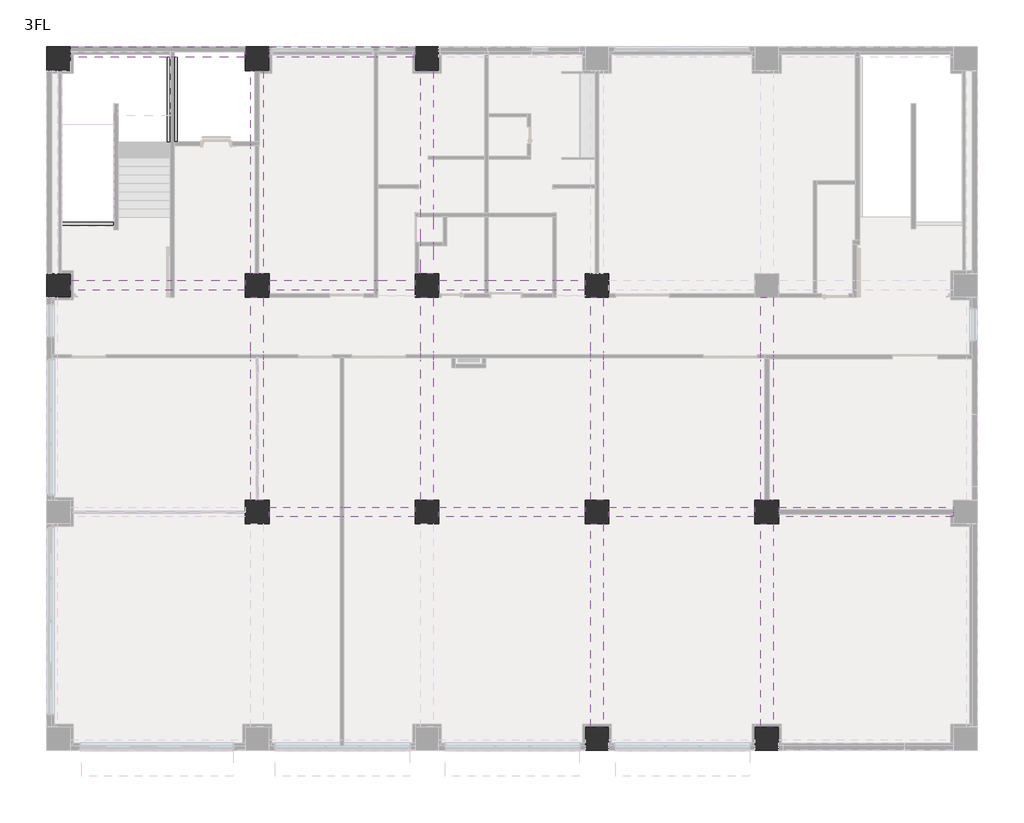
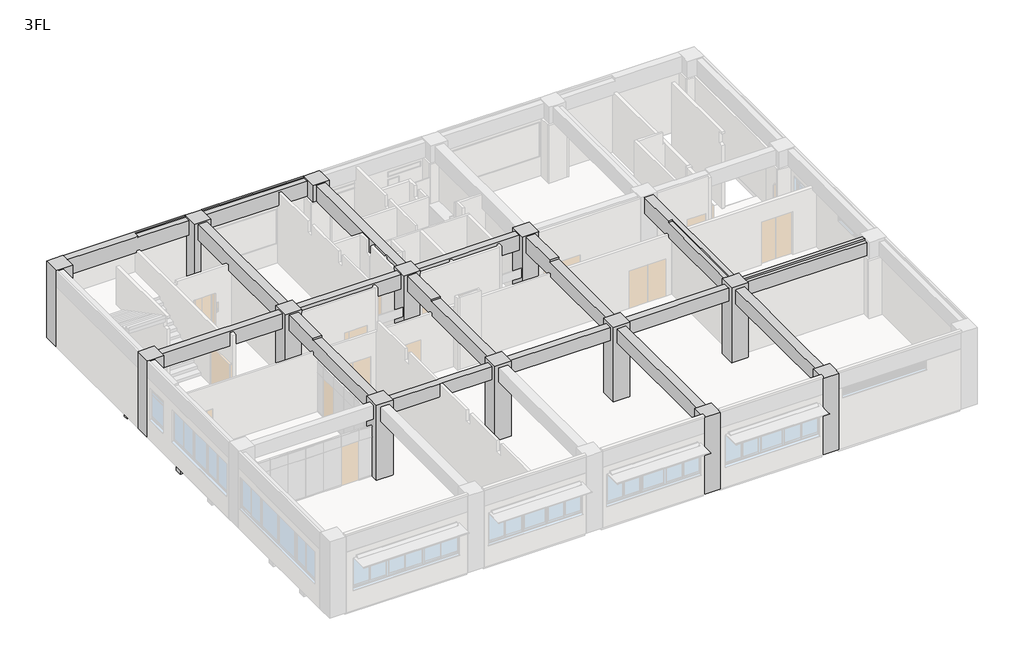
# One storey, part 5 of 6: 38 beams, 13 columns.
"""IFC4 building model written with IfcOpenShell, lengths in millimetres."""

import ifcopenshell
import ifcopenshell.guid

model = None  # the IFC model being written
_history = None  # IfcOwnerHistory: only IFC2X3 demands one
_inside = {}  # id of a spatial element -> (the spatial element, [elements in it])
_under = {}  # id of a project, library or spatial element -> (it, [spatial elements below it])
_declared = {}  # id of a project -> (the project, [libraries it declares])
_typed = {}  # id of a type object -> (the type object, [elements of that type])
_made_of = {}  # id of a material, layer set ... -> (it, [elements and type objects made of it])


def new_model(schema):
    """Start an empty IFC model of exactly this schema.

    Asked for "IFC4X3", IfcOpenShell would pick the latest addendum, in which some entities
    have other attributes; the version numbers below select the first issue.
    IFC2X3 requires an IfcOwnerHistory on every rooted entity: one is made here for all.
    """
    global model, _history
    if schema == "IFC4X3":
        model = ifcopenshell.file(schema_version=(4, 3, 0, 0))
    else:
        model = ifcopenshell.file(schema=schema)
    _inside.clear()
    _under.clear()
    _declared.clear()
    _typed.clear()
    _made_of.clear()
    _history = None
    if model.schema == "IFC2X3":
        org = make("IfcOrganization", Name="unknown")
        user = make(
            "IfcPersonAndOrganization",
            ThePerson=make("IfcPerson", FamilyName="unknown"),
            TheOrganization=org,
        )
        app = make(
            "IfcApplication",
            ApplicationDeveloper=org,
            Version="unknown",
            ApplicationFullName="unknown",
            ApplicationIdentifier="unknown",
        )
        _history = make(
            "IfcOwnerHistory",
            OwningUser=user,
            OwningApplication=app,
            ChangeAction="ADDED",
            CreationDate=0,
        )
    return model


def make(cls, **values):
    """One entity of the class cls with the attributes given. An attribute that is None is left unset."""
    return model.create_entity(
        cls, **{name: value for name, value in values.items() if value is not None}
    )


def rooted(cls, **values):
    """An entity with a GlobalId (a new one), such as an element, a storey or a relation."""
    return make(cls, GlobalId=ifcopenshell.guid.new(), OwnerHistory=_history, **values)


def si_unit(unit_type, name, prefix=None):
    """IfcSIUnit, for example si_unit("LENGTHUNIT", "METRE", prefix="MILLI")."""
    return make("IfcSIUnit", UnitType=unit_type, Prefix=prefix, Name=name)


def assignment(units):
    """IfcUnitAssignment: the units of a project."""
    return None if units is None else make("IfcUnitAssignment", Units=units)


def point(xyz):
    """IfcCartesianPoint."""
    return None if xyz is None else make("IfcCartesianPoint", Coordinates=xyz)


def direction(xyz):
    """IfcDirection."""
    return None if xyz is None else make("IfcDirection", DirectionRatios=xyz)


def frame(location, z_axis=None, x_axis=None):
    """IfcAxis2Placement3D, a coordinate frame: its origin and axes. An axis left out is left unset."""
    return make(
        "IfcAxis2Placement3D",
        Location=point(location),
        Axis=direction(z_axis),
        RefDirection=direction(x_axis),
    )


def origin():
    """The frame at (0, 0, 0) with its axes left unset."""
    return frame((0.0, 0.0, 0.0))


def place(relative_to, where):
    """IfcLocalPlacement: puts the frame where relative to a parent placement (None: the world)."""
    return make(
        "IfcLocalPlacement", PlacementRelTo=relative_to, RelativePlacement=where
    )


def context(
    kind, dimensions, precision=None, world=None, true_north=None, identifier=None
):
    """IfcGeometricRepresentationContext, for example the 3D "Model" context."""
    return make(
        "IfcGeometricRepresentationContext",
        ContextIdentifier=identifier,
        ContextType=kind,
        CoordinateSpaceDimension=dimensions,
        Precision=precision,
        WorldCoordinateSystem=world,
        TrueNorth=true_north,
    )


def project(units=None, contexts=None):
    """IfcProject with its units and contexts."""
    return rooted(
        "IfcProject",
        Name="project",
        RepresentationContexts=contexts,
        UnitsInContext=assignment(units),
    )


def spatial(cls, under=None, at=None, **own):
    """A site, building, storey or space (cls), placed at a placement, below another one or the project."""
    s = rooted(cls, ObjectPlacement=at, **own)
    if under is not None:
        _under.setdefault(under.id(), (under, []))[1].append(s)
    return s


def polyline(points):
    """IfcPolyline through the points."""
    return make("IfcPolyline", Points=[point(p) for p in points])


def outline(outer, holes=None, kind="AREA"):
    """IfcArbitraryClosedProfileDef: a profile drawn as a closed curve; with holes, ...WithVoids."""
    if holes is None:
        return make("IfcArbitraryClosedProfileDef", ProfileType=kind, OuterCurve=outer)
    return make(
        "IfcArbitraryProfileDefWithVoids",
        ProfileType=kind,
        OuterCurve=outer,
        InnerCurves=holes,
    )


def extrude(swept, where, along, depth):
    """IfcExtrudedAreaSolid: the profile swept, set in the frame where, extruded along a direction by depth."""
    return make(
        "IfcExtrudedAreaSolid",
        SweptArea=swept,
        Position=where,
        ExtrudedDirection=direction(along),
        Depth=depth,
    )


def faces_of(points, faces, orient=None, outer=None):
    """IfcFace entities. A face is a list of loops; a loop is a list of indices into points, from 0.

    orient and outer hold one flag for each loop. By default every Orientation is true, the
    first loop of a face is its IfcFaceOuterBound and the others are IfcFaceBound.
    """
    made = []
    for i, loops in enumerate(faces):
        bounds = []
        for j, loop in enumerate(loops):
            is_outer = j == 0 if outer is None else outer[i][j]
            bounds.append(
                make(
                    "IfcFaceOuterBound" if is_outer else "IfcFaceBound",
                    Bound=make("IfcPolyLoop", Polygon=[points[k] for k in loop]),
                    Orientation=True if orient is None else orient[i][j],
                )
            )
        made.append(make("IfcFace", Bounds=bounds))
    return made


def faceted_brep(points, faces, orient=None, outer=None, voids=None):
    """IfcFacetedBrep: a solid bounded by flat faces; with voids (closed shells), ...WithVoids."""
    shared = [point(p) for p in points]
    hull = make("IfcClosedShell", CfsFaces=faces_of(shared, faces, orient, outer))
    if voids is None:
        return make("IfcFacetedBrep", Outer=hull)
    return make(
        "IfcFacetedBrepWithVoids",
        Outer=hull,
        Voids=[
            make(cls, CfsFaces=faces_of(shared, fs, o, b)) for cls, fs, o, b in voids
        ],
    )


def shape(context_of_items, identifier, shape_type, items):
    """IfcShapeRepresentation: the items that make up one representation, for example the "Body"."""
    return make(
        "IfcShapeRepresentation",
        ContextOfItems=context_of_items,
        RepresentationIdentifier=identifier,
        RepresentationType=shape_type,
        Items=items,
    )


def made_of(thing, what):
    """Note that an element or type object is made of a material, layer set ...; save() writes the relation."""
    if what is not None:
        _made_of.setdefault(what.id(), (what, []))[1].append(thing)
    return thing


def element(
    cls,
    number,
    at=None,
    inside=None,
    cuts=None,
    type_object=None,
    material=None,
    context=None,
    identifier="Body",
    shape_type=None,
    held_by="IfcProductDefinitionShape",
    body=None,
    shapes=None,
    **own,
):
    """One element of the class cls, such as IfcWall. Its Tag is "e" and its number.

    at: its placement. inside: the storey or other place that contains it. cuts: it is an
    opening in that element (IfcRelVoidsElement). A single representation is given by context,
    identifier, shape_type and body (its items); several are given by shapes. held_by: the class
    of the entity that holds the representations. save() writes the other relations.
    """
    e = rooted(cls, Tag="e%d" % number, ObjectPlacement=at, **own)
    if body is not None:
        shapes = [shape(context, identifier, shape_type, body)]
    if shapes is not None:
        e.Representation = make(held_by, Representations=shapes)
    if inside is not None:
        _inside.setdefault(inside.id(), (inside, []))[1].append(e)
    if cuts is not None:
        rooted(
            "IfcRelVoidsElement", RelatingBuildingElement=cuts, RelatedOpeningElement=e
        )
    if type_object is not None:
        _typed.setdefault(type_object.id(), (type_object, []))[1].append(e)
    return made_of(e, material)


def aggregate(whole, parts):
    """IfcRelAggregates: a whole, such as a stair, and the parts it consists of."""
    return rooted("IfcRelAggregates", RelatingObject=whole, RelatedObjects=parts)


def save(model, path):
    """Write the relations noted so far, then the file.

    IfcRelAggregates (storeys below a building ...), IfcRelContainedInSpatialStructure (elements
    in a storey), IfcRelDefinesByType, IfcRelAssociatesMaterial and IfcRelDeclares: one each for
    every whole, place, type object, material and project.
    """
    for whole, parts in _under.values():
        aggregate(whole, parts)
    for where, things in _inside.values():
        rooted(
            "IfcRelContainedInSpatialStructure",
            RelatedElements=things,
            RelatingStructure=where,
        )
    for kind, things in _typed.values():
        rooted("IfcRelDefinesByType", RelatedObjects=things, RelatingType=kind)
    for what, things in _made_of.values():
        rooted("IfcRelAssociatesMaterial", RelatedObjects=things, RelatingMaterial=what)
    for by, libraries in _declared.values():
        rooted("IfcRelDeclares", RelatingContext=by, RelatedDefinitions=libraries)
    model.write(path)


model = new_model("IFC4")

# Units and contexts
model_context = context("Model", 3, world=origin())
ifc_project = project(units=[si_unit("LENGTHUNIT", "METRE", prefix="MILLI")], contexts=[model_context])

# Site, building, storey
site = spatial("IfcSite", under=ifc_project)
building = spatial("IfcBuilding", under=site)
storey = spatial("IfcBuildingStorey", under=building, Name="3FL", Elevation=8200.0)

# Beams
placement = place(None, origin())
element("IfcBeam", 1, ObjectType="営_RC梁 : 2-RG2 350*850", at=placement, inside=storey, context=model_context, shape_type="Brep", body=[
    faceted_brep([(7420.0, 7825.0, 11350.0), (9940.0, 7825.0, 11350.0), (10060.0, 7825.0, 11350.0), (12580.0, 7825.0, 11350.0), (12580.0, 7825.0, 12050.0), (10060.0, 7825.0, 12050.0), (9940.0, 7825.0, 12050.0), (7420.0, 7825.0, 12050.0), (7420.0, 8175.0, 11350.0), (9940.0, 8175.0, 11350.0), (10060.0, 8175.0, 11350.0), (12580.0, 8175.0, 11350.0), (7420.0, 8175.0, 12050.0), (9940.0, 8175.0, 12050.0), (10060.0, 8175.0, 12050.0), (12580.0, 8175.0, 12050.0)], [[[0, 1, 2, 3, 4, 5, 6, 7]], [[0, 8, 9, 10, 11, 3, 2, 1]], [[11, 10, 9, 8, 12, 13, 14, 15]], [[8, 0, 7, 12]], [[3, 11, 15, 4]], [[7, 6, 5, 4, 15, 14, 13, 12]]]),
])
element("IfcBeam", 2, ObjectType="営_RC梁 : 2-RG2 350*850", at=placement, inside=storey, context=model_context, shape_type="SweptSolid", body=[
    extrude(outline(polyline([(13420.0, 7825.0), (13420.0, 8175.0), (18580.0, 8175.0), (18580.0, 7825.0), (13420.0, 7825.0)])), frame((0.0, 0.0, 11350.0), z_axis=(0.0, 0.0, 1.0), x_axis=(1.0, 0.0, 0.0)), (0.0, 0.0, 1.0), 700.0),
])
element("IfcBeam", 3, ObjectType="営_RC梁 : 2-RG2 350*850", at=placement, inside=storey, context=model_context, shape_type="SweptSolid", body=[
    extrude(outline(polyline([(19420.0, 7825.0), (19420.0, 8175.0), (24580.0, 8175.0), (24580.0, 7825.0), (19420.0, 7825.0)])), frame((0.0, 0.0, 11350.0), z_axis=(0.0, 0.0, 1.0), x_axis=(1.0, 0.0, 0.0)), (0.0, 0.0, 1.0), 700.0),
])
element("IfcBeam", 4, ObjectType="営_RC梁 : 2-RG2 350*850", at=placement, inside=storey, context=model_context, shape_type="Brep", body=[
    faceted_brep([(25420.0, 7825.0, 11350.0), (31580.0, 7825.0, 11350.0), (31580.0, 7825.0, 12050.0), (25420.0, 7825.0, 12050.0), (25420.0, 7925.0, 11350.0), (25420.0, 8075.0, 11350.0), (25420.0, 8175.0, 11350.0), (31580.0, 8175.0, 11350.0), (31580.0, 8075.0, 11350.0), (31580.0, 7925.0, 11350.0), (25420.0, 8175.0, 12140.0), (31580.0, 8175.0, 12140.0), (25420.0, 8000.0, 12050.0), (25420.0, 8000.0, 12140.0), (31580.0, 8000.0, 12140.0), (31580.0, 8000.0, 12050.0)], [[[0, 1, 2, 3]], [[0, 4, 5, 6, 7, 8, 9, 1]], [[7, 6, 10, 11]], [[6, 5, 4, 0, 3, 12, 13, 10]], [[1, 9, 8, 7, 11, 14, 15, 2]], [[15, 12, 3, 2]], [[12, 15, 14, 13]], [[11, 10, 13, 14]]]),
])
element("IfcBeam", 5, ObjectType="営_RC梁 : 2-RG2 350*850", at=placement, inside=storey, context=model_context, shape_type="Brep", body=[
    faceted_brep([(420.0, 15825.0, 11350.0), (6580.0, 15825.0, 11350.0), (6580.0, 15825.0, 12140.0), (420.0, 15825.0, 12140.0), (6580.0, 16175.0, 11350.0), (420.0, 16175.0, 11350.0), (420.0, 16175.0, 12140.0), (3825.0, 16175.0, 12140.0), (4175.0, 16175.0, 12140.0), (6580.0, 16175.0, 12140.0)], [[[0, 1, 2, 3]], [[4, 1, 0, 5]], [[4, 5, 6, 7, 8, 9]], [[1, 4, 9, 2]], [[5, 0, 3, 6]], [[3, 2, 9, 8, 7, 6]]]),
])
element("IfcBeam", 6, ObjectType="営_RC梁 : 2-RG2 350*850", at=placement, inside=storey, context=model_context, shape_type="Brep", body=[
    faceted_brep([(7420.0, 15825.0, 11350.0), (11140.0, 15825.0, 11350.0), (11260.0, 15825.0, 11350.0), (12580.0, 15825.0, 11350.0), (12580.0, 15825.0, 12140.0), (7420.0, 15825.0, 12140.0), (7420.0, 16175.0, 11350.0), (11140.0, 16175.0, 11350.0), (11260.0, 16175.0, 11350.0), (12580.0, 16175.0, 11350.0), (7420.0, 16175.0, 12140.0), (12580.0, 16175.0, 12140.0)], [[[0, 1, 2, 3, 4, 5]], [[0, 6, 7, 8, 9, 3, 2, 1]], [[9, 8, 7, 6, 10, 11]], [[6, 0, 5, 10]], [[3, 9, 11, 4]], [[5, 4, 11, 10]]]),
])
element("IfcBeam", 7, ObjectType="営_RC梁 : 2-RG2 350*850", at=placement, inside=storey, context=model_context, shape_type="Brep", body=[
    faceted_brep([(13420.0, 15825.0, 11350.0), (15040.0, 15825.0, 11350.0), (15160.0, 15825.0, 11350.0), (17440.0, 15825.0, 11350.0), (17560.0, 15825.0, 11350.0), (18580.0, 15825.0, 11350.0), (18580.0, 15825.0, 12140.0), (13420.0, 15825.0, 12140.0), (13420.0, 16175.0, 11350.0), (15040.0, 16175.0, 11350.0), (15160.0, 16175.0, 11350.0), (17440.0, 16175.0, 11350.0), (17560.0, 16175.0, 11350.0), (18580.0, 16175.0, 11350.0), (13420.0, 16175.0, 12140.0), (18580.0, 16175.0, 12140.0)], [[[0, 1, 2, 3, 4, 5, 6, 7]], [[0, 8, 9, 10, 11, 12, 13, 5, 4, 3, 2, 1]], [[13, 12, 11, 10, 9, 8, 14, 15]], [[8, 0, 7, 14]], [[5, 13, 15, 6]], [[7, 6, 15, 14]]]),
])
element("IfcBeam", 8, ObjectType="営_RC梁 : 2-RG1 350*850", at=placement, inside=storey, context=model_context, shape_type="Brep", body=[
    faceted_brep([(420.0, 24050.0, 11350.0), (3925.0, 24050.0, 11350.0), (4075.0, 24050.0, 11350.0), (6580.0, 24050.0, 11350.0), (6580.0, 24050.0, 12140.0), (4175.0, 24050.0, 12140.0), (4000.0, 24050.0, 12140.0), (4000.0, 24050.0, 12200.0), (3825.0, 24050.0, 12200.0), (420.0, 24050.0, 12200.0), (6580.0, 24420.0, 11350.0), (6580.0, 24250.0, 11350.0), (420.0, 24250.0, 11350.0), (420.0, 24420.0, 11350.0), (6580.0, 24420.0, 12200.0), (420.0, 24420.0, 12200.0), (4000.0, 24335.0, 12200.0), (6580.0, 24335.0, 12200.0), (6580.0, 24335.0, 12140.0), (4000.0, 24335.0, 12140.0)], [[[0, 1, 2, 3, 4, 5, 6, 7, 8, 9]], [[10, 11, 3, 2, 1, 0, 12, 13]], [[14, 10, 13, 15]], [[14, 15, 9, 8, 7, 16, 17]], [[3, 11, 10, 14, 17, 18, 4]], [[0, 9, 15, 13, 12]], [[18, 19, 6, 5, 4]], [[19, 18, 17, 16]], [[6, 19, 16, 7]]]),
])
element("IfcBeam", 9, ObjectType="営_RC梁 : 2-RG1 350*850", at=placement, inside=storey, context=model_context, shape_type="Brep", body=[
    faceted_brep([(7420.0, 24050.0, 11350.0), (11140.0, 24050.0, 11350.0), (11260.0, 24050.0, 11350.0), (12580.0, 24050.0, 11350.0), (12580.0, 24050.0, 12140.0), (7420.0, 24050.0, 12140.0), (7420.0, 24250.0, 11350.0), (7420.0, 24420.0, 11350.0), (12580.0, 24420.0, 11350.0), (12580.0, 24250.0, 11350.0), (7420.0, 24420.0, 12200.0), (12580.0, 24420.0, 12200.0), (7420.0, 24335.0, 12200.0), (12580.0, 24335.0, 12200.0), (7420.0, 24335.0, 12140.0), (12580.0, 24335.0, 12140.0)], [[[0, 1, 2, 3, 4, 5]], [[0, 6, 7, 8, 9, 3, 2, 1]], [[7, 10, 11, 8]], [[11, 10, 12, 13]], [[7, 6, 0, 5, 14, 12, 10]], [[3, 9, 8, 11, 13, 15, 4]], [[15, 14, 5, 4]], [[14, 15, 13, 12]]]),
])
element("IfcBeam", 10, ObjectType="営_RC梁 : 2-4G12 450*900", at=placement, inside=storey, context=model_context, shape_type="Brep", body=[
    faceted_brep([(7225.0, 8420.0, 11300.0), (7225.0, 13440.0, 11300.0), (7225.0, 13560.0, 11300.0), (7225.0, 15580.0, 11300.0), (7225.0, 15580.0, 12140.0), (7225.0, 13675.0, 12140.0), (7225.0, 13500.0, 12140.0), (7225.0, 13500.0, 12050.0), (7225.0, 13325.0, 12050.0), (7225.0, 10925.0, 12050.0), (7225.0, 10575.0, 12050.0), (7225.0, 8420.0, 12050.0), (6775.0, 8420.0, 11300.0), (6775.0, 13440.0, 11300.0), (6775.0, 13560.0, 11300.0), (6775.0, 15580.0, 11300.0), (6775.0, 8420.0, 12050.0), (6775.0, 10575.0, 12050.0), (6775.0, 10925.0, 12050.0), (6775.0, 13325.0, 12050.0), (6775.0, 13500.0, 12050.0), (6775.0, 13500.0, 12140.0), (6775.0, 13675.0, 12140.0), (6775.0, 15580.0, 12140.0)], [[[0, 1, 2, 3, 4, 5, 6, 7, 8, 9, 10, 11]], [[0, 12, 13, 14, 15, 3, 2, 1]], [[15, 14, 13, 12, 16, 17, 18, 19, 20, 21, 22, 23]], [[12, 0, 11, 16]], [[3, 15, 23, 4]], [[7, 20, 19, 18, 17, 16, 11, 10, 9, 8]], [[20, 7, 6, 21]], [[6, 5, 4, 23, 22, 21]]]),
])
element("IfcBeam", 11, ObjectType="営_RC梁 : 2-4G12 450*900", at=placement, inside=storey, context=model_context, shape_type="Brep", body=[
    faceted_brep([(7225.0, 16420.0, 11300.0), (7225.0, 23580.0, 11300.0), (7225.0, 23580.0, 12140.0), (7225.0, 21515.0, 12140.0), (7225.0, 21165.0, 12140.0), (7225.0, 18845.0, 12140.0), (7225.0, 18495.0, 12140.0), (7225.0, 16420.0, 12140.0), (7060.0, 16420.0, 11300.0), (6940.0, 16420.0, 11300.0), (6775.0, 16420.0, 11300.0), (6775.0, 20925.0, 11300.0), (6775.0, 21075.0, 11300.0), (6775.0, 23580.0, 11300.0), (6925.0, 23580.0, 11300.0), (7075.0, 23580.0, 11300.0), (6775.0, 16420.0, 12140.0), (6775.0, 20825.0, 12140.0), (6775.0, 21075.0, 12140.0), (6775.0, 23580.0, 12140.0)], [[[0, 1, 2, 3, 4, 5, 6, 7]], [[0, 8, 9, 10, 11, 12, 13, 14, 15, 1]], [[13, 12, 11, 10, 16, 17, 18, 19]], [[10, 9, 8, 0, 7, 16]], [[1, 15, 14, 13, 19, 2]], [[7, 6, 5, 4, 3, 2, 19, 18, 17, 16]]]),
])
element("IfcBeam", 12, ObjectType="営_RC梁 : 2-4G12 450*900", at=placement, inside=storey, context=model_context, shape_type="Brep", body=[
    faceted_brep([(13225.0, 8420.0, 11300.0), (13225.0, 13440.0, 11300.0), (13225.0, 13560.0, 11300.0), (13225.0, 15580.0, 11300.0), (13225.0, 15580.0, 12140.0), (13225.0, 13675.0, 12140.0), (13225.0, 13500.0, 12140.0), (13225.0, 13500.0, 12050.0), (13225.0, 13325.0, 12050.0), (13225.0, 10925.0, 12050.0), (13225.0, 10575.0, 12050.0), (13225.0, 8420.0, 12050.0), (12775.0, 8420.0, 11300.0), (12775.0, 13440.0, 11300.0), (12775.0, 13560.0, 11300.0), (12775.0, 15580.0, 11300.0), (12775.0, 8420.0, 12050.0), (12775.0, 10575.0, 12050.0), (12775.0, 10925.0, 12050.0), (12775.0, 13325.0, 12050.0), (12775.0, 13500.0, 12050.0), (12775.0, 13500.0, 12140.0), (12775.0, 13675.0, 12140.0), (12775.0, 15580.0, 12140.0)], [[[0, 1, 2, 3, 4, 5, 6, 7, 8, 9, 10, 11]], [[0, 12, 13, 14, 15, 3, 2, 1]], [[15, 14, 13, 12, 16, 17, 18, 19, 20, 21, 22, 23]], [[12, 0, 11, 16]], [[3, 15, 23, 4]], [[7, 20, 19, 18, 17, 16, 11, 10, 9, 8]], [[20, 7, 6, 21]], [[6, 5, 4, 23, 22, 21]]]),
])
element("IfcBeam", 13, ObjectType="営_RC梁 : 2-4G12 450*900", at=placement, inside=storey, context=model_context, shape_type="Brep", body=[
    faceted_brep([(13225.0, 16420.0, 11300.0), (13225.0, 17400.0, 11300.0), (13225.0, 17520.0, 11300.0), (13225.0, 18430.0, 11300.0), (13225.0, 18550.0, 11300.0), (13225.0, 20450.0, 11300.0), (13225.0, 20570.0, 11300.0), (13225.0, 23580.0, 11300.0), (13225.0, 23580.0, 12140.0), (13225.0, 21515.0, 12140.0), (13225.0, 21165.0, 12140.0), (13225.0, 18845.0, 12140.0), (13225.0, 18495.0, 12140.0), (13225.0, 16420.0, 12140.0), (12775.0, 16420.0, 11300.0), (12775.0, 17400.0, 11300.0), (12775.0, 17520.0, 11300.0), (12775.0, 18430.0, 11300.0), (12775.0, 18550.0, 11300.0), (12775.0, 23580.0, 11300.0), (12775.0, 16420.0, 12140.0), (12775.0, 18495.0, 12140.0), (12775.0, 18845.0, 12140.0), (12775.0, 21165.0, 12140.0), (12775.0, 21515.0, 12140.0), (12775.0, 23580.0, 12140.0)], [[[0, 1, 2, 3, 4, 5, 6, 7, 8, 9, 10, 11, 12, 13]], [[0, 14, 15, 16, 17, 18, 19, 7, 6, 5, 4, 3, 2, 1]], [[19, 18, 17, 16, 15, 14, 20, 21, 22, 23, 24, 25]], [[14, 0, 13, 20]], [[7, 19, 25, 8]], [[13, 12, 11, 10, 9, 8, 25, 24, 23, 22, 21, 20]]]),
])
element("IfcBeam", 14, ObjectType="営_RC梁 : 2-4G12 450*900", at=placement, inside=storey, context=model_context, shape_type="Brep", body=[
    faceted_brep([(19225.0, 420.0, 11300.0), (19225.0, 7580.0, 11300.0), (19225.0, 7580.0, 12050.0), (19225.0, 5505.0, 12050.0), (19225.0, 5155.0, 12050.0), (19225.0, 2835.0, 12050.0), (19225.0, 2485.0, 12050.0), (19225.0, 420.0, 12050.0), (18775.0, 420.0, 11300.0), (18775.0, 7580.0, 11300.0), (18775.0, 420.0, 12050.0), (18775.0, 2485.0, 12050.0), (18775.0, 2835.0, 12050.0), (18775.0, 5155.0, 12050.0), (18775.0, 5505.0, 12050.0), (18775.0, 7580.0, 12050.0)], [[[0, 1, 2, 3, 4, 5, 6, 7]], [[0, 8, 9, 1]], [[9, 8, 10, 11, 12, 13, 14, 15]], [[8, 0, 7, 10]], [[1, 9, 15, 2]], [[7, 6, 5, 4, 3, 2, 15, 14, 13, 12, 11, 10]]]),
])
element("IfcBeam", 15, ObjectType="営_RC梁 : 2-4G12 450*900", at=placement, inside=storey, context=model_context, shape_type="Brep", body=[
    faceted_brep([(19225.0, 8420.0, 11300.0), (19225.0, 13440.0, 11300.0), (19225.0, 13560.0, 11300.0), (19225.0, 15580.0, 11300.0), (19225.0, 15580.0, 12140.0), (19225.0, 13675.0, 12140.0), (19225.0, 13500.0, 12140.0), (19225.0, 13500.0, 12050.0), (19225.0, 13325.0, 12050.0), (19225.0, 10925.0, 12050.0), (19225.0, 10575.0, 12050.0), (19225.0, 8420.0, 12050.0), (18775.0, 8420.0, 11300.0), (18775.0, 13440.0, 11300.0), (18775.0, 13560.0, 11300.0), (18775.0, 15580.0, 11300.0), (18775.0, 8420.0, 12050.0), (18775.0, 10575.0, 12050.0), (18775.0, 10925.0, 12050.0), (18775.0, 13325.0, 12050.0), (18775.0, 13500.0, 12050.0), (18775.0, 13500.0, 12140.0), (18775.0, 13675.0, 12140.0), (18775.0, 15580.0, 12140.0)], [[[0, 1, 2, 3, 4, 5, 6, 7, 8, 9, 10, 11]], [[0, 12, 13, 14, 15, 3, 2, 1]], [[15, 14, 13, 12, 16, 17, 18, 19, 20, 21, 22, 23]], [[12, 0, 11, 16]], [[3, 15, 23, 4]], [[7, 20, 19, 18, 17, 16, 11, 10, 9, 8]], [[20, 7, 6, 21]], [[6, 5, 4, 23, 22, 21]]]),
])
element("IfcBeam", 16, ObjectType="営_RC梁 : 2-4G12 450*900", at=placement, inside=storey, context=model_context, shape_type="Brep", body=[
    faceted_brep([(25225.0, 420.0, 11300.0), (25225.0, 7580.0, 11300.0), (25225.0, 7580.0, 12050.0), (25225.0, 5505.0, 12050.0), (25225.0, 5155.0, 12050.0), (25225.0, 2835.0, 12050.0), (25225.0, 2485.0, 12050.0), (25225.0, 420.0, 12050.0), (24775.0, 420.0, 11300.0), (24775.0, 7580.0, 11300.0), (24775.0, 420.0, 12050.0), (24775.0, 2485.0, 12050.0), (24775.0, 2835.0, 12050.0), (24775.0, 5155.0, 12050.0), (24775.0, 5505.0, 12050.0), (24775.0, 7580.0, 12050.0)], [[[0, 1, 2, 3, 4, 5, 6, 7]], [[0, 8, 9, 1]], [[9, 8, 10, 11, 12, 13, 14, 15]], [[8, 0, 7, 10]], [[1, 9, 15, 2]], [[7, 6, 5, 4, 3, 2, 15, 14, 13, 12, 11, 10]]]),
])
element("IfcBeam", 17, ObjectType="営_RC梁 : 2-4G12 450*900", at=placement, inside=storey, context=model_context, shape_type="Brep", body=[
    faceted_brep([(25225.0, 8420.0, 11300.0), (25225.0, 13405.0, 11300.0), (25225.0, 13555.0, 11300.0), (25225.0, 15580.0, 11300.0), (25225.0, 15580.0, 12140.0), (25225.0, 13675.0, 12140.0), (25225.0, 13325.0, 12140.0), (25225.0, 10925.0, 12140.0), (25225.0, 10575.0, 12140.0), (25225.0, 8420.0, 12140.0), (25075.0, 8420.0, 11300.0), (24925.0, 8420.0, 11300.0), (24775.0, 8420.0, 11300.0), (24775.0, 13440.0, 11300.0), (24775.0, 13560.0, 11300.0), (24775.0, 15580.0, 11300.0), (24775.0, 8420.0, 12050.0), (24775.0, 10575.0, 12050.0), (24775.0, 10925.0, 12050.0), (24775.0, 13325.0, 12050.0), (24775.0, 13500.0, 12050.0), (24775.0, 13500.0, 12140.0), (24775.0, 13675.0, 12140.0), (24775.0, 15580.0, 12140.0), (25000.0, 8420.0, 12140.0), (25000.0, 8420.0, 12050.0), (25000.0, 13500.0, 12050.0), (25000.0, 13500.0, 12140.0)], [[[0, 1, 2, 3, 4, 5, 6, 7, 8, 9]], [[0, 10, 11, 12, 13, 14, 15, 3, 2, 1]], [[15, 14, 13, 12, 16, 17, 18, 19, 20, 21, 22, 23]], [[12, 11, 10, 0, 9, 24, 25, 16]], [[3, 15, 23, 4]], [[25, 26, 20, 19, 18, 17, 16]], [[20, 26, 27, 21]], [[26, 25, 24, 27]], [[9, 8, 7, 6, 5, 4, 23, 22, 21, 27, 24]]]),
])
element("IfcBeam", 18, ObjectType="営_RC梁 : B2 350*750", at=placement, inside=storey, context=model_context, shape_type="SweptSolid", body=[
    extrude(outline(polyline([(25225.0, 2485.0), (25225.0, 2835.0), (32050.0, 2835.0), (32050.0, 2485.0), (25225.0, 2485.0)])), frame((0.0, 0.0, 7350.0), z_axis=(0.0, 0.0, 1.0), x_axis=(1.0, 0.0, 0.0)), (0.0, 0.0, 1.0), 600.0),
])
element("IfcBeam", 19, ObjectType="営_RC梁 : B2 350*750", at=placement, inside=storey, context=model_context, shape_type="SweptSolid", body=[
    extrude(outline(polyline([(25225.0, 5155.0), (25225.0, 5505.0), (32050.0, 5505.0), (32050.0, 5155.0), (25225.0, 5155.0)])), frame((0.0, 0.0, 7350.0), z_axis=(0.0, 0.0, 1.0), x_axis=(1.0, 0.0, 0.0)), (0.0, 0.0, 1.0), 600.0),
])
element("IfcBeam", 20, ObjectType="営_RC梁 : B2 350*750", at=placement, inside=storey, context=model_context, shape_type="SweptSolid", body=[
    extrude(outline(polyline([(25225.0, 10575.0), (25225.0, 10925.0), (32050.0, 10925.0), (32050.0, 10575.0), (25225.0, 10575.0)])), frame((0.0, 0.0, 7350.0), z_axis=(0.0, 0.0, 1.0), x_axis=(1.0, 0.0, 0.0)), (0.0, 0.0, 1.0), 690.0),
])
element("IfcBeam", 21, ObjectType="営_RC梁 : B2 350*750", at=placement, inside=storey, context=model_context, shape_type="Brep", body=[
    faceted_brep([(25225.0, 13325.0, 7350.0), (32050.0, 13325.0, 7350.0), (32050.0, 13325.0, 8040.0), (25225.0, 13325.0, 8040.0), (25225.0, 13410.0, 7350.0), (25225.0, 13560.0, 7350.0), (25225.0, 13675.0, 7350.0), (32050.0, 13675.0, 7350.0), (32050.0, 13560.0, 7350.0), (32050.0, 13410.0, 7350.0), (25225.0, 13675.0, 8040.0), (32050.0, 13675.0, 8040.0)], [[[0, 1, 2, 3]], [[0, 4, 5, 6, 7, 8, 9, 1]], [[7, 6, 10, 11]], [[6, 5, 4, 0, 3, 10]], [[1, 9, 8, 7, 11, 2]], [[3, 2, 11, 10]]]),
])
element("IfcBeam", 22, ObjectType="営_RC梁 : B2 350*750", at=placement, inside=storey, context=model_context, shape_type="Brep", body=[
    faceted_brep([(19225.0, 2485.0, 7350.0), (20940.0, 2485.0, 7350.0), (21060.0, 2485.0, 7350.0), (24775.0, 2485.0, 7350.0), (24775.0, 2485.0, 7950.0), (21060.0, 2485.0, 7950.0), (20940.0, 2485.0, 7950.0), (19225.0, 2485.0, 7950.0), (19225.0, 2835.0, 7350.0), (20940.0, 2835.0, 7350.0), (21060.0, 2835.0, 7350.0), (24775.0, 2835.0, 7350.0), (19225.0, 2835.0, 7950.0), (20940.0, 2835.0, 7950.0), (21060.0, 2835.0, 7950.0), (24775.0, 2835.0, 7950.0)], [[[0, 1, 2, 3, 4, 5, 6, 7]], [[0, 8, 9, 10, 11, 3, 2, 1]], [[11, 10, 9, 8, 12, 13, 14, 15]], [[8, 0, 7, 12]], [[3, 11, 15, 4]], [[7, 6, 5, 4, 15, 14, 13, 12]]]),
])
element("IfcBeam", 23, ObjectType="営_RC梁 : B2 350*750", at=placement, inside=storey, context=model_context, shape_type="Brep", body=[
    faceted_brep([(19225.0, 5155.0, 7350.0), (20940.0, 5155.0, 7350.0), (21060.0, 5155.0, 7350.0), (24775.0, 5155.0, 7350.0), (24775.0, 5155.0, 7950.0), (21060.0, 5155.0, 7950.0), (20940.0, 5155.0, 7950.0), (19225.0, 5155.0, 7950.0), (19225.0, 5505.0, 7350.0), (20940.0, 5505.0, 7350.0), (21060.0, 5505.0, 7350.0), (24775.0, 5505.0, 7350.0), (19225.0, 5505.0, 7950.0), (20940.0, 5505.0, 7950.0), (21060.0, 5505.0, 7950.0), (24775.0, 5505.0, 7950.0)], [[[0, 1, 2, 3, 4, 5, 6, 7]], [[0, 8, 9, 10, 11, 3, 2, 1]], [[11, 10, 9, 8, 12, 13, 14, 15]], [[8, 0, 7, 12]], [[3, 11, 15, 4]], [[7, 6, 5, 4, 15, 14, 13, 12]]]),
])
element("IfcBeam", 24, ObjectType="営_RC梁 : B2 350*750", at=placement, inside=storey, context=model_context, shape_type="Brep", body=[
    faceted_brep([(19225.0, 10575.0, 7350.0), (20940.0, 10575.0, 7350.0), (21060.0, 10575.0, 7350.0), (24775.0, 10575.0, 7350.0), (24775.0, 10575.0, 7950.0), (21060.0, 10575.0, 7950.0), (20940.0, 10575.0, 7950.0), (19225.0, 10575.0, 7950.0), (19225.0, 10925.0, 7350.0), (20940.0, 10925.0, 7350.0), (21060.0, 10925.0, 7350.0), (24775.0, 10925.0, 7350.0), (19225.0, 10925.0, 7950.0), (20940.0, 10925.0, 7950.0), (21060.0, 10925.0, 7950.0), (24775.0, 10925.0, 7950.0)], [[[0, 1, 2, 3, 4, 5, 6, 7]], [[0, 8, 9, 10, 11, 3, 2, 1]], [[11, 10, 9, 8, 12, 13, 14, 15]], [[8, 0, 7, 12]], [[3, 11, 15, 4]], [[7, 6, 5, 4, 15, 14, 13, 12]]]),
])
element("IfcBeam", 25, ObjectType="営_RC梁 : B2 350*750", at=placement, inside=storey, context=model_context, shape_type="Brep", body=[
    faceted_brep([(19225.0, 13325.0, 7350.0), (20940.0, 13325.0, 7350.0), (21060.0, 13325.0, 7350.0), (24775.0, 13325.0, 7350.0), (24775.0, 13325.0, 7950.0), (21060.0, 13325.0, 7950.0), (20940.0, 13325.0, 7950.0), (19225.0, 13325.0, 7950.0), (19225.0, 13675.0, 7350.0), (24775.0, 13675.0, 7350.0), (24775.0, 13560.0, 7350.0), (24775.0, 13440.0, 7350.0), (19225.0, 13675.0, 8040.0), (24775.0, 13675.0, 8040.0), (19225.0, 13500.0, 7950.0), (19225.0, 13500.0, 8040.0), (24775.0, 13500.0, 8040.0), (24775.0, 13500.0, 7950.0)], [[[0, 1, 2, 3, 4, 5, 6, 7]], [[0, 8, 9, 10, 11, 3, 2, 1]], [[9, 8, 12, 13]], [[8, 0, 7, 14, 15, 12]], [[3, 11, 10, 9, 13, 16, 17, 4]], [[17, 14, 7, 6, 5, 4]], [[14, 17, 16, 15]], [[13, 12, 15, 16]]]),
])
element("IfcBeam", 26, ObjectType="営_RC梁 : B2 350*750", at=placement, inside=storey, context=model_context, shape_type="SweptSolid", body=[
    extrude(outline(polyline([(13225.0, 5155.0), (13225.0, 5505.0), (18775.0, 5505.0), (18775.0, 5155.0), (13225.0, 5155.0)])), frame((0.0, 0.0, 7350.0), z_axis=(0.0, 0.0, 1.0), x_axis=(1.0, 0.0, 0.0)), (0.0, 0.0, 1.0), 600.0),
])
element("IfcBeam", 27, ObjectType="営_RC梁 : B2 350*750", at=placement, inside=storey, context=model_context, shape_type="SweptSolid", body=[
    extrude(outline(polyline([(13225.0, 2485.0), (13225.0, 2835.0), (18775.0, 2835.0), (18775.0, 2485.0), (13225.0, 2485.0)])), frame((0.0, 0.0, 7350.0), z_axis=(0.0, 0.0, 1.0), x_axis=(1.0, 0.0, 0.0)), (0.0, 0.0, 1.0), 600.0),
])
element("IfcBeam", 28, ObjectType="営_RC梁 : B1 350*750", at=placement, inside=storey, context=model_context, shape_type="SweptSolid", body=[
    extrude(outline(polyline([(13675.0, 7350.0), (13325.0, 7350.0), (13325.0, 7950.0), (13500.0, 7950.0), (13500.0, 8040.0), (13675.0, 8040.0), (13675.0, 7350.0)])), frame((-50.0, 0.0, 0.0), z_axis=(1.0, 0.0, 0.0), x_axis=(0.0, 1.0, 0.0)), (0.0, 0.0, 1.0), 6825.0),
])
element("IfcBeam", 29, ObjectType="営_RC梁 : B2 350*750", at=placement, inside=storey, context=model_context, shape_type="SweptSolid", body=[
    extrude(outline(polyline([(7225.0, 10575.0), (7225.0, 10925.0), (12775.0, 10925.0), (12775.0, 10575.0), (7225.0, 10575.0)])), frame((0.0, 0.0, 7350.0), z_axis=(0.0, 0.0, 1.0), x_axis=(1.0, 0.0, 0.0)), (0.0, 0.0, 1.0), 600.0),
])
element("IfcBeam", 30, ObjectType="営_RC梁 : B2 350*750", at=placement, inside=storey, context=model_context, shape_type="SweptSolid", body=[
    extrude(outline(polyline([(13675.0, 7350.0), (13325.0, 7350.0), (13325.0, 7950.0), (13500.0, 7950.0), (13500.0, 8040.0), (13675.0, 8040.0), (13675.0, 7350.0)])), frame((7225.0, 0.0, 0.0), z_axis=(1.0, 0.0, 0.0), x_axis=(0.0, 1.0, 0.0)), (0.0, 0.0, 1.0), 5550.0),
])
element("IfcBeam", 31, ObjectType="営_RC梁 : B2 350*750", at=placement, inside=storey, context=model_context, shape_type="SweptSolid", body=[
    extrude(outline(polyline([(18775.0, 10925.0), (18775.0, 10575.0), (13225.0, 10575.0), (13225.0, 10925.0), (18775.0, 10925.0)])), frame((0.0, 0.0, 7350.0), z_axis=(0.0, 0.0, 1.0), x_axis=(1.0, 0.0, 0.0)), (0.0, 0.0, 1.0), 600.0),
])
element("IfcBeam", 32, ObjectType="営_RC梁 : B2 350*750", at=placement, inside=storey, context=model_context, shape_type="Brep", body=[
    faceted_brep([(13225.0, 13325.0, 7350.0), (13870.0, 13325.0, 7350.0), (13990.0, 13325.0, 7350.0), (14950.0, 13325.0, 7350.0), (15070.0, 13325.0, 7350.0), (18775.0, 13325.0, 7350.0), (18775.0, 13325.0, 7950.0), (15070.0, 13325.0, 7950.0), (14950.0, 13325.0, 7950.0), (13990.0, 13325.0, 7950.0), (13870.0, 13325.0, 7950.0), (13225.0, 13325.0, 7950.0), (18775.0, 13675.0, 7350.0), (13225.0, 13675.0, 7350.0), (13225.0, 13675.0, 8040.0), (18775.0, 13675.0, 8040.0), (18775.0, 13500.0, 8040.0), (18775.0, 13500.0, 7950.0), (13225.0, 13500.0, 7950.0), (13225.0, 13500.0, 8040.0)], [[[0, 1, 2, 3, 4, 5, 6, 7, 8, 9, 10, 11]], [[12, 5, 4, 3, 2, 1, 0, 13]], [[12, 13, 14, 15]], [[5, 12, 15, 16, 17, 6]], [[13, 0, 11, 18, 19, 14]], [[17, 18, 11, 10, 9, 8, 7, 6]], [[18, 17, 16, 19]], [[15, 14, 19, 16]]]),
])
element("IfcBeam", 33, ObjectType="営_RC梁 : B1 350*750", at=placement, inside=storey, context=model_context, shape_type="Brep", body=[
    faceted_brep([(13225.0, 18495.0, 7350.0), (13570.0, 18495.0, 7350.0), (13690.0, 18495.0, 7350.0), (15160.0, 18495.0, 7350.0), (17560.0, 18495.0, 7350.0), (18775.0, 18495.0, 7350.0), (18775.0, 18495.0, 8040.0), (13225.0, 18495.0, 8040.0), (13225.0, 18495.0, 7950.0), (13225.0, 18550.0, 7350.0), (13225.0, 18845.0, 7350.0), (15040.0, 18845.0, 7350.0), (15160.0, 18845.0, 7350.0), (17440.0, 18845.0, 7350.0), (17560.0, 18845.0, 7350.0), (18775.0, 18845.0, 7350.0), (13225.0, 18845.0, 8040.0), (18775.0, 18845.0, 8040.0)], [[[0, 1, 2, 3, 4, 5, 6, 7, 8]], [[0, 9, 10, 11, 12, 13, 14, 15, 5, 4, 3, 2, 1]], [[15, 14, 13, 12, 11, 10, 16, 17]], [[10, 9, 0, 8, 7, 16]], [[5, 15, 17, 6]], [[7, 6, 17, 16]]]),
])
element("IfcBeam", 34, ObjectType="営_RC梁 : B1 350*750", at=placement, inside=storey, context=model_context, shape_type="Brep", body=[
    faceted_brep([(7225.0, 18495.0, 7350.0), (11140.0, 18495.0, 7350.0), (11260.0, 18495.0, 7350.0), (12580.0, 18495.0, 7350.0), (12700.0, 18495.0, 7350.0), (12775.0, 18495.0, 7350.0), (12775.0, 18495.0, 7950.0), (12775.0, 18495.0, 8040.0), (11200.0, 18495.0, 8040.0), (11200.0, 18495.0, 7950.0), (11140.0, 18495.0, 7950.0), (7225.0, 18495.0, 7950.0), (7225.0, 18845.0, 7350.0), (11140.0, 18845.0, 7350.0), (11260.0, 18845.0, 7350.0), (12580.0, 18845.0, 7350.0), (12700.0, 18845.0, 7350.0), (12775.0, 18845.0, 7350.0), (12775.0, 18550.0, 7350.0), (7225.0, 18845.0, 7950.0), (11140.0, 18845.0, 7950.0), (11200.0, 18845.0, 7950.0), (11200.0, 18845.0, 8040.0), (12775.0, 18845.0, 8040.0)], [[[0, 1, 2, 3, 4, 5, 6, 7, 8, 9, 10, 11]], [[0, 12, 13, 14, 15, 16, 17, 18, 5, 4, 3, 2, 1]], [[17, 16, 15, 14, 13, 12, 19, 20, 21, 22, 23]], [[12, 0, 11, 19]], [[5, 18, 17, 23, 7, 6]], [[8, 7, 23, 22]], [[9, 21, 20, 19, 11, 10]], [[21, 9, 8, 22]]]),
])
element("IfcBeam", 35, ObjectType="営_RC梁 : B1 350*750", at=placement, inside=storey, context=model_context, shape_type="Brep", body=[
    faceted_brep([(7225.0, 21165.0, 7350.0), (11140.0, 21165.0, 7350.0), (11260.0, 21165.0, 7350.0), (12775.0, 21165.0, 7350.0), (12775.0, 21165.0, 8040.0), (11200.0, 21165.0, 8040.0), (11200.0, 21165.0, 7950.0), (11140.0, 21165.0, 7950.0), (7225.0, 21165.0, 7950.0), (7225.0, 21515.0, 7350.0), (11140.0, 21515.0, 7350.0), (11260.0, 21515.0, 7350.0), (12775.0, 21515.0, 7350.0), (7225.0, 21515.0, 7950.0), (11140.0, 21515.0, 7950.0), (11200.0, 21515.0, 7950.0), (11200.0, 21515.0, 8040.0), (12775.0, 21515.0, 8040.0)], [[[0, 1, 2, 3, 4, 5, 6, 7, 8]], [[0, 9, 10, 11, 12, 3, 2, 1]], [[12, 11, 10, 9, 13, 14, 15, 16, 17]], [[9, 0, 8, 13]], [[3, 12, 17, 4]], [[5, 4, 17, 16]], [[6, 15, 14, 13, 8, 7]], [[15, 6, 5, 16]]]),
])
element("IfcBeam", 36, ObjectType="営_RC梁 : B3 250*600", at=placement, inside=storey, context=model_context, shape_type="Brep", body=[
    faceted_brep([(4306.3, 21075.0, 7500.0), (4306.3, 20925.0, 7500.0), (4306.3, 20825.0, 7500.0), (4306.3, 20825.0, 8040.0), (4306.3, 21075.0, 8040.0), (4306.3, 21075.0, 7950.0), (6775.0, 20825.0, 7500.0), (6775.0, 20825.0, 8040.0), (6775.0, 21075.0, 7500.0), (6775.0, 20925.0, 7500.0), (6775.0, 21075.0, 8040.0)], [[[0, 1, 2, 3, 4, 5]], [[2, 6, 7, 3]], [[2, 1, 0, 8, 9, 6]], [[8, 0, 5, 4, 10]], [[6, 9, 8, 10, 7]], [[4, 3, 7, 10]]]),
])
element("IfcBeam", 37, ObjectType="営_RC梁 : B4 350*750", at=placement, inside=storey, context=model_context, shape_type="Brep", body=[
    faceted_brep([(4175.0, 16175.0, 7350.0), (4175.0, 20925.0, 7350.0), (4175.0, 21075.0, 7350.0), (4175.0, 24050.0, 7350.0), (4175.0, 24050.0, 8100.0), (4175.0, 21075.0, 8100.0), (4175.0, 21075.0, 8040.0), (4175.0, 16175.0, 8040.0), (3825.0, 16175.0, 7350.0), (3825.0, 24050.0, 7350.0), (3925.0, 24050.0, 7350.0), (4075.0, 24050.0, 7350.0), (3825.0, 16175.0, 8040.0), (3825.0, 17975.0, 8040.0), (3825.0, 18225.0, 8040.0), (3825.0, 18400.0, 8040.0), (3825.0, 18400.0, 8100.0), (3825.0, 24050.0, 8100.0), (4000.0, 18400.0, 8100.0), (4000.0, 21075.0, 8100.0), (4000.0, 21075.0, 8040.0), (4000.0, 18400.0, 8040.0)], [[[0, 1, 2, 3, 4, 5, 6, 7]], [[0, 8, 9, 10, 11, 3, 2, 1]], [[9, 8, 12, 13, 14, 15, 16, 17]], [[4, 17, 16, 18, 19, 5]], [[8, 0, 7, 12]], [[4, 3, 11, 10, 9, 17]], [[20, 21, 15, 14, 13, 12, 7, 6]], [[15, 21, 18, 16]], [[21, 20, 19, 18]], [[20, 6, 5, 19]]]),
])
element("IfcBeam", 38, ObjectType="営_RC梁 : B3 250*600", at=placement, inside=storey, context=model_context, shape_type="Brep", body=[
    faceted_brep([(-50.0, 17975.0, 7500.0), (3825.0, 17975.0, 7500.0), (3825.0, 17975.0, 8040.0), (-50.0, 17975.0, 8040.0), (3825.0, 18225.0, 7500.0), (-50.0, 18225.0, 7500.0), (1945.0, 18225.0, 7500.0), (2095.0, 18225.0, 7500.0), (-50.0, 18225.0, 8040.0), (100.0, 18225.0, 8040.0), (100.0, 18225.0, 8100.0), (1945.0, 18225.0, 8100.0), (2095.0, 18225.0, 8100.0), (2095.0, 18225.0, 8040.0), (3825.0, 18225.0, 8040.0), (100.0, 18100.0, 8100.0), (1945.0, 18100.0, 8100.0), (1945.0, 18005.0, 8100.0), (2095.0, 18005.0, 8100.0), (1945.0, 18100.0, 8040.0), (100.0, 18100.0, 8040.0), (2095.0, 18005.0, 8040.0), (1945.0, 18005.0, 8040.0)], [[[0, 1, 2, 3]], [[4, 1, 0, 5, 6, 7]], [[4, 7, 6, 5, 8, 9, 10, 11, 12, 13, 14]], [[12, 11, 10, 15, 16, 17, 18]], [[1, 4, 14, 2]], [[5, 0, 3, 8]], [[19, 20, 9, 8, 3, 2, 14, 13, 21, 22]], [[9, 20, 15, 10]], [[20, 19, 16, 15]], [[19, 22, 17, 16]], [[22, 21, 18, 17]], [[21, 13, 12, 18]]]),
])

# Columns
element("IfcColumn", 39, ObjectType="営_RC柱_角 : 800*800", at=placement, inside=storey, context=model_context, shape_type="Brep", body=[
    faceted_brep([(19420.0, 420.0, 8100.0), (19420.0, -250.0, 8100.0), (19420.0, -420.0, 8100.0), (18580.0, -420.0, 8100.0), (18580.0, -250.0, 8100.0), (18580.0, 420.0, 8100.0), (19420.0, 420.0, 12200.0), (19420.0, -325.0, 12200.0), (19420.0, -420.0, 12200.0), (19420.0, -420.0, 11350.0), (19420.0, 420.0, 8180.0), (19420.0, 420.0, 8190.0), (19420.0, 420.0, 12050.0), (19395.0, -420.0, 12200.0), (18605.0, -420.0, 12200.0), (18580.0, -420.0, 12200.0), (18580.0, -420.0, 11350.0), (18580.0, -325.0, 12200.0), (18580.0, 420.0, 12200.0), (18580.0, 420.0, 12050.0), (18580.0, 420.0, 8190.0), (18580.0, 420.0, 8180.0)], [[[0, 1, 2, 3, 4, 5]], [[6, 7, 8, 9, 2, 1, 0, 10, 11, 12]], [[8, 13, 14, 15, 16, 3, 2, 9]], [[15, 17, 18, 19, 20, 21, 5, 4, 3, 16]], [[18, 6, 12, 11, 10, 0, 5, 21, 20, 19]], [[6, 18, 17, 15, 14, 13, 8, 7]]]),
])
element("IfcColumn", 40, ObjectType="営_RC柱_角 : 800*800", at=placement, inside=storey, context=model_context, shape_type="Brep", body=[
    faceted_brep([(25420.0, 420.0, 8100.0), (25420.0, -250.0, 8100.0), (25420.0, -420.0, 8100.0), (24580.0, -420.0, 8100.0), (24580.0, -250.0, 8100.0), (24580.0, 420.0, 8100.0), (25420.0, 420.0, 12200.0), (25420.0, -325.0, 12200.0), (25420.0, -420.0, 12200.0), (25420.0, -420.0, 11350.0), (25420.0, 420.0, 8180.0), (25420.0, 420.0, 8190.0), (25420.0, 420.0, 12050.0), (25395.0, -420.0, 12200.0), (24605.0, -420.0, 12200.0), (24580.0, -420.0, 12200.0), (24580.0, -420.0, 11350.0), (24580.0, -325.0, 12200.0), (24580.0, 420.0, 12200.0), (24580.0, 420.0, 12050.0), (24580.0, 420.0, 8190.0), (24580.0, 420.0, 8180.0)], [[[0, 1, 2, 3, 4, 5]], [[6, 7, 8, 9, 2, 1, 0, 10, 11, 12]], [[8, 13, 14, 15, 16, 3, 2, 9]], [[15, 17, 18, 19, 20, 21, 5, 4, 3, 16]], [[18, 6, 12, 11, 10, 0, 5, 21, 20, 19]], [[6, 18, 17, 15, 14, 13, 8, 7]]]),
])
element("IfcColumn", 41, ObjectType="営_RC柱_角 : 800*800", at=placement, inside=storey, context=model_context, shape_type="Brep", body=[
    faceted_brep([(7420.0, 8420.0, 8100.0), (7420.0, 7580.0, 8100.0), (6580.0, 7580.0, 8100.0), (6580.0, 8420.0, 8100.0), (7420.0, 8420.0, 12200.0), (7420.0, 7580.0, 12200.0), (7420.0, 7580.0, 12050.0), (7420.0, 7580.0, 8190.0), (7420.0, 7580.0, 8180.0), (7420.0, 8420.0, 8180.0), (7420.0, 8420.0, 8190.0), (7420.0, 8420.0, 12050.0), (6580.0, 7580.0, 12200.0), (6580.0, 7580.0, 12050.0), (6580.0, 7580.0, 8190.0), (6580.0, 7580.0, 8180.0), (6580.0, 8420.0, 12200.0), (6580.0, 8420.0, 12050.0), (6580.0, 8420.0, 8190.0), (6580.0, 8420.0, 8180.0)], [[[0, 1, 2, 3]], [[4, 5, 6, 7, 8, 1, 0, 9, 10, 11]], [[5, 12, 13, 14, 15, 2, 1, 8, 7, 6]], [[12, 16, 17, 18, 19, 3, 2, 15, 14, 13]], [[16, 4, 11, 10, 9, 0, 3, 19, 18, 17]], [[4, 16, 12, 5]]]),
])
element("IfcColumn", 42, ObjectType="営_RC柱_角 : 800*800", at=placement, inside=storey, context=model_context, shape_type="Brep", body=[
    faceted_brep([(13420.0, 8420.0, 8100.0), (13420.0, 7580.0, 8100.0), (12580.0, 7580.0, 8100.0), (12580.0, 8420.0, 8100.0), (13420.0, 8420.0, 12200.0), (13420.0, 7580.0, 12200.0), (13420.0, 7580.0, 12050.0), (13420.0, 7580.0, 8190.0), (13420.0, 7580.0, 8180.0), (13420.0, 8420.0, 8180.0), (13420.0, 8420.0, 8190.0), (13420.0, 8420.0, 12050.0), (12580.0, 7580.0, 12200.0), (12580.0, 7580.0, 12050.0), (12580.0, 7580.0, 8190.0), (12580.0, 7580.0, 8180.0), (12580.0, 8420.0, 12200.0), (12580.0, 8420.0, 12050.0), (12580.0, 8420.0, 8190.0), (12580.0, 8420.0, 8180.0)], [[[0, 1, 2, 3]], [[4, 5, 6, 7, 8, 1, 0, 9, 10, 11]], [[5, 12, 13, 14, 15, 2, 1, 8, 7, 6]], [[12, 16, 17, 18, 19, 3, 2, 15, 14, 13]], [[16, 4, 11, 10, 9, 0, 3, 19, 18, 17]], [[4, 16, 12, 5]]]),
])
element("IfcColumn", 43, ObjectType="営_RC柱_角 : 800*800", at=placement, inside=storey, context=model_context, shape_type="Brep", body=[
    faceted_brep([(19420.0, 8420.0, 8100.0), (19420.0, 7580.0, 8100.0), (18580.0, 7580.0, 8100.0), (18580.0, 8420.0, 8100.0), (19420.0, 8420.0, 12200.0), (19420.0, 7580.0, 12200.0), (19420.0, 7580.0, 12050.0), (19420.0, 7580.0, 8190.0), (19420.0, 7580.0, 8180.0), (19420.0, 8420.0, 8180.0), (19420.0, 8420.0, 8190.0), (19420.0, 8420.0, 12050.0), (18580.0, 7580.0, 12200.0), (18580.0, 7580.0, 12050.0), (18580.0, 7580.0, 8190.0), (18580.0, 7580.0, 8180.0), (18580.0, 8420.0, 12200.0), (18580.0, 8420.0, 12050.0), (18580.0, 8420.0, 8190.0), (18580.0, 8420.0, 8180.0)], [[[0, 1, 2, 3]], [[4, 5, 6, 7, 8, 1, 0, 9, 10, 11]], [[5, 12, 13, 14, 15, 2, 1, 8, 7, 6]], [[12, 16, 17, 18, 19, 3, 2, 15, 14, 13]], [[16, 4, 11, 10, 9, 0, 3, 19, 18, 17]], [[4, 16, 12, 5]]]),
])
element("IfcColumn", 44, ObjectType="営_RC柱_角 : 800*800", at=placement, inside=storey, context=model_context, shape_type="Brep", body=[
    faceted_brep([(25420.0, 8420.0, 8100.0), (25420.0, 7580.0, 8100.0), (24580.0, 7580.0, 8100.0), (24580.0, 8420.0, 8100.0), (25420.0, 8420.0, 12200.0), (25420.0, 8000.0, 12200.0), (25420.0, 7580.0, 12200.0), (25420.0, 7580.0, 12050.0), (25420.0, 7580.0, 8190.0), (25420.0, 7580.0, 8180.0), (25420.0, 8420.0, 8190.0), (25420.0, 8420.0, 12140.0), (24580.0, 7580.0, 12200.0), (24580.0, 7580.0, 12050.0), (24580.0, 7580.0, 8190.0), (24580.0, 7580.0, 8180.0), (24580.0, 8420.0, 12200.0), (24580.0, 8420.0, 12050.0), (24580.0, 8420.0, 8190.0), (24580.0, 8420.0, 8180.0), (25000.0, 8420.0, 12200.0)], [[[0, 1, 2, 3]], [[4, 5, 6, 7, 8, 9, 1, 0, 10, 11]], [[6, 12, 13, 14, 15, 2, 1, 9, 8, 7]], [[12, 16, 17, 18, 19, 3, 2, 15, 14, 13]], [[16, 20, 4, 11, 10, 0, 3, 19, 18, 17]], [[4, 20, 16, 12, 6, 5]]]),
])
element("IfcColumn", 45, ObjectType="営_RC柱_角 : 800*800", at=placement, inside=storey, context=model_context, shape_type="Brep", body=[
    faceted_brep([(7420.0, 16420.0, 8100.0), (7420.0, 15580.0, 8100.0), (6580.0, 15580.0, 8100.0), (6580.0, 16420.0, 8100.0), (7420.0, 16420.0, 12200.0), (7420.0, 15580.0, 12200.0), (7420.0, 15580.0, 12140.0), (7420.0, 15580.0, 12050.0), (7420.0, 15580.0, 8200.0), (7420.0, 15580.0, 8190.0), (7420.0, 16420.0, 8180.0), (7420.0, 16420.0, 8190.0), (7420.0, 16420.0, 12140.0), (6580.0, 15580.0, 12200.0), (6580.0, 15580.0, 12140.0), (6580.0, 15580.0, 8190.0), (6580.0, 16420.0, 12200.0), (6580.0, 16420.0, 12140.0), (6580.0, 16420.0, 8190.0)], [[[0, 1, 2, 3]], [[4, 5, 6, 7, 8, 9, 1, 0, 10, 11, 12]], [[5, 13, 14, 15, 2, 1, 9, 8, 7, 6]], [[13, 16, 17, 18, 3, 2, 15, 14]], [[16, 4, 12, 11, 10, 0, 3, 18, 17]], [[4, 16, 13, 5]]]),
])
element("IfcColumn", 46, ObjectType="営_RC柱_角 : 800*800", at=placement, inside=storey, context=model_context, shape_type="Brep", body=[
    faceted_brep([(13420.0, 16420.0, 8100.0), (13420.0, 15580.0, 8100.0), (12580.0, 15580.0, 8100.0), (12580.0, 16420.0, 8100.0), (13420.0, 16420.0, 12200.0), (13420.0, 15580.0, 12200.0), (13420.0, 15580.0, 12140.0), (13420.0, 15580.0, 12050.0), (13420.0, 15580.0, 8200.0), (13420.0, 15580.0, 8190.0), (13420.0, 16420.0, 8190.0), (13420.0, 16420.0, 12140.0), (12580.0, 15580.0, 12200.0), (12580.0, 15580.0, 12140.0), (12580.0, 15580.0, 8190.0), (12580.0, 16420.0, 12200.0), (12580.0, 16420.0, 12140.0), (12580.0, 16420.0, 12050.0), (12580.0, 16420.0, 8200.0), (12580.0, 16420.0, 8190.0)], [[[0, 1, 2, 3]], [[4, 5, 6, 7, 8, 9, 1, 0, 10, 11]], [[5, 12, 13, 14, 2, 1, 9, 8, 7, 6]], [[12, 15, 16, 17, 18, 19, 3, 2, 14, 13]], [[15, 4, 11, 10, 0, 3, 19, 18, 17, 16]], [[4, 15, 12, 5]]]),
])
element("IfcColumn", 47, ObjectType="営_RC柱_角 : 800*800", at=placement, inside=storey, context=model_context, shape_type="Brep", body=[
    faceted_brep([(19420.0, 16420.0, 8100.0), (19420.0, 15580.0, 8100.0), (18580.0, 15580.0, 8100.0), (18580.0, 16420.0, 8100.0), (19420.0, 16420.0, 12200.0), (19420.0, 15580.0, 12200.0), (19420.0, 15580.0, 12140.0), (19420.0, 15580.0, 8200.0), (19420.0, 15580.0, 8190.0), (19420.0, 16420.0, 8180.0), (19420.0, 16420.0, 8190.0), (19420.0, 16420.0, 12140.0), (18580.0, 15580.0, 12200.0), (18580.0, 15580.0, 12140.0), (18580.0, 15580.0, 8190.0), (18580.0, 16420.0, 12200.0), (18580.0, 16420.0, 12140.0), (18580.0, 16420.0, 8190.0)], [[[0, 1, 2, 3]], [[4, 5, 6, 7, 8, 1, 0, 9, 10, 11]], [[5, 12, 13, 14, 2, 1, 8, 7, 6]], [[12, 15, 16, 17, 3, 2, 14, 13]], [[15, 4, 11, 10, 9, 0, 3, 17, 16]], [[4, 15, 12, 5]]]),
])
element("IfcColumn", 48, ObjectType="営_RC柱_角 : 800*800", at=placement, inside=storey, context=model_context, shape_type="Brep", body=[
    faceted_brep([(420.0, 16420.0, 8100.0), (420.0, 15580.0, 8100.0), (-250.0, 15580.0, 8100.0), (-325.0, 15580.0, 8100.0), (-420.0, 15580.0, 8100.0), (-420.0, 16420.0, 8100.0), (-325.0, 16420.0, 8100.0), (-250.0, 16420.0, 8100.0), (420.0, 16420.0, 12200.0), (420.0, 15580.0, 12200.0), (420.0, 15580.0, 12140.0), (420.0, 15580.0, 8190.0), (420.0, 16420.0, 8190.0), (420.0, 16420.0, 12140.0), (-325.0, 15580.0, 12200.0), (-420.0, 15580.0, 12200.0), (-420.0, 15580.0, 11300.0), (-420.0, 15605.0, 12200.0), (-420.0, 16395.0, 12200.0), (-420.0, 16420.0, 12200.0), (-420.0, 16420.0, 11300.0), (-325.0, 16420.0, 12200.0)], [[[0, 1, 2, 3, 4, 5, 6, 7]], [[8, 9, 10, 11, 1, 0, 12, 13]], [[9, 14, 15, 16, 4, 3, 2, 1, 11, 10]], [[15, 17, 18, 19, 20, 5, 4, 16]], [[19, 21, 8, 13, 12, 0, 7, 6, 5, 20]], [[8, 21, 19, 18, 17, 15, 14, 9]]]),
])
element("IfcColumn", 49, ObjectType="営_RC柱_角 : 800*800", at=placement, inside=storey, context=model_context, shape_type="Brep", body=[
    faceted_brep([(7420.0, 24420.0, 8100.0), (7420.0, 24250.0, 8100.0), (7420.0, 23580.0, 8100.0), (6580.0, 23580.0, 8100.0), (6580.0, 24250.0, 8100.0), (6580.0, 24420.0, 8100.0), (7420.0, 24420.0, 12200.0), (7420.0, 24335.0, 12200.0), (7420.0, 23580.0, 12200.0), (7420.0, 23580.0, 12140.0), (7420.0, 23580.0, 8190.0), (7420.0, 23580.0, 8180.0), (7420.0, 24420.0, 11350.0), (6580.0, 23580.0, 12200.0), (6580.0, 23580.0, 12140.0), (6580.0, 24335.0, 12200.0), (6580.0, 24420.0, 12200.0), (6580.0, 24420.0, 11350.0), (6605.0, 24420.0, 12200.0), (7395.0, 24420.0, 12200.0)], [[[0, 1, 2, 3, 4, 5]], [[6, 7, 8, 9, 10, 11, 2, 1, 0, 12]], [[8, 13, 14, 3, 2, 11, 10, 9]], [[13, 15, 16, 17, 5, 4, 3, 14]], [[16, 18, 19, 6, 12, 0, 5, 17]], [[6, 19, 18, 16, 15, 13, 8, 7]]]),
])
element("IfcColumn", 50, ObjectType="営_RC柱_角 : 800*800", at=placement, inside=storey, context=model_context, shape_type="Brep", body=[
    faceted_brep([(13420.0, 24420.0, 8100.0), (13420.0, 24250.0, 8100.0), (13420.0, 23580.0, 8100.0), (12580.0, 23580.0, 8100.0), (12580.0, 24250.0, 8100.0), (12580.0, 24420.0, 8100.0), (13420.0, 24420.0, 12200.0), (13420.0, 24335.0, 12200.0), (13420.0, 23580.0, 12200.0), (13420.0, 23580.0, 12140.0), (13420.0, 23580.0, 8190.0), (13420.0, 24420.0, 11350.0), (12580.0, 23580.0, 12200.0), (12580.0, 23580.0, 12140.0), (12580.0, 23580.0, 8190.0), (12580.0, 24335.0, 12200.0), (12580.0, 24420.0, 12200.0), (12580.0, 24420.0, 11350.0), (12605.0, 24420.0, 12200.0), (13395.0, 24420.0, 12200.0)], [[[0, 1, 2, 3, 4, 5]], [[6, 7, 8, 9, 10, 2, 1, 0, 11]], [[8, 12, 13, 14, 3, 2, 10, 9]], [[12, 15, 16, 17, 5, 4, 3, 14, 13]], [[16, 18, 19, 6, 11, 0, 5, 17]], [[6, 19, 18, 16, 15, 12, 8, 7]]]),
])
element("IfcColumn", 51, ObjectType="営_RC柱_角 : 800*800", at=placement, inside=storey, context=model_context, shape_type="Brep", body=[
    faceted_brep([(420.0, 24420.0, 8100.0), (420.0, 24250.0, 8100.0), (420.0, 23580.0, 8100.0), (-250.0, 23580.0, 8100.0), (-420.0, 23580.0, 8100.0), (-420.0, 24420.0, 8100.0), (420.0, 24420.0, 12200.0), (420.0, 24050.0, 12200.0), (420.0, 23580.0, 12200.0), (420.0, 24420.0, 11350.0), (-325.0, 23580.0, 12200.0), (-420.0, 23580.0, 12200.0), (-420.0, 23580.0, 11300.0), (-420.0, 23630.0, 12200.0), (-420.0, 24420.0, 12200.0), (370.0, 24420.0, 12200.0)], [[[0, 1, 2, 3, 4, 5]], [[6, 7, 8, 2, 1, 0, 9]], [[8, 10, 11, 12, 4, 3, 2]], [[11, 13, 14, 5, 4, 12]], [[14, 15, 6, 9, 0, 5]], [[6, 15, 14, 13, 11, 10, 8, 7]]]),
])

save(model, "model.ifc")
